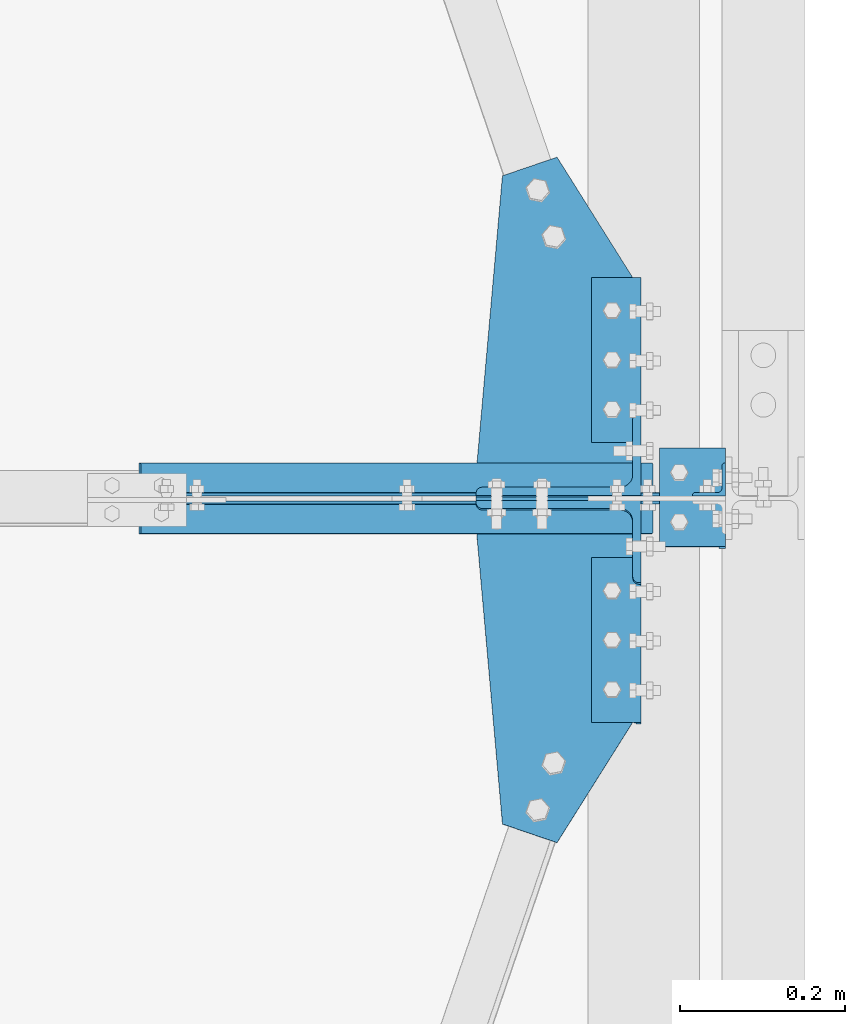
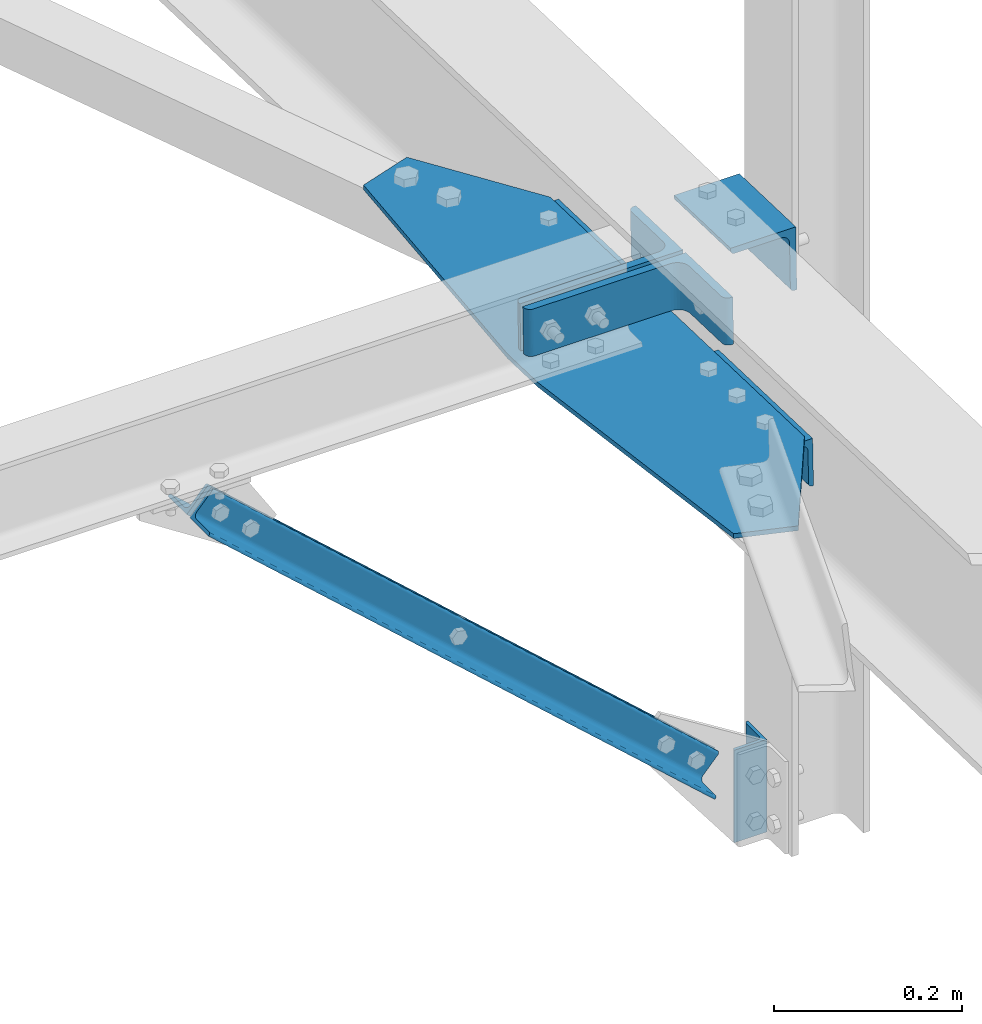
# One storey, part 108 of 362: 5 beams, 4 members, 9 elements without a shape of their own.
"""IFC2X3 building model written with IfcOpenShell, lengths in millimetres."""

from ifc_helpers import new_model, si_unit, frame, origin_with_axes, origin_2d_with_axis, place, context, subcontext, project, spatial, polyline, l_section, outline, extrude, clip, halfspace, material, type_object, element, aggregate, save


model = new_model("IFC2X3")

# Units and contexts
model_context = context("Model", 3, precision=1e-05, world=origin_with_axes())
body_context = subcontext(model_context, "Body", "Model", "MODEL_VIEW")
ifc_project = project(units=[si_unit("LENGTHUNIT", "METRE", prefix="MILLI"), si_unit("AREAUNIT", "SQUARE_METRE"), si_unit("VOLUMEUNIT", "CUBIC_METRE"), si_unit("MASSUNIT", "GRAM", prefix="KILO"), si_unit("TIMEUNIT", "SECOND"), si_unit("PLANEANGLEUNIT", "RADIAN"), si_unit("SOLIDANGLEUNIT", "STERADIAN"), si_unit("THERMODYNAMICTEMPERATUREUNIT", "DEGREE_CELSIUS"), si_unit("LUMINOUSINTENSITYUNIT", "LUMEN")], contexts=[model_context])

# Site, building, storey
site_placement = place(None, origin_with_axes())
site = spatial("IfcSite", under=ifc_project, at=site_placement, Name="Undefined", CompositionType="ELEMENT")
building_placement = place(site_placement, origin_with_axes())
building = spatial("IfcBuilding", under=site, at=building_placement, Name="Undefined", CompositionType="ELEMENT")
storey_placement = place(building_placement, origin_with_axes())
storey = spatial("IfcBuildingStorey", under=building, at=storey_placement, Name="Undefined", CompositionType="ELEMENT", Elevation=0.0)

# Assembly, beam
assembly_1_placement = place(storey_placement, origin_with_axes())
assembly_1 = element("IfcElementAssembly", 1, at=assembly_1_placement, inside=storey, AssemblyPlace="NOTDEFINED", PredefinedType="NOTDEFINED")
ifc_material = material(Name="Undefined/S235-E24")
beam_type_1 = type_object("IfcBeamType", Name="L60*6", PredefinedType="NOTDEFINED")
beam_1_placement = place(assembly_1_placement, frame((39596.4999999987, 3527.11779048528, 7783.07884358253), z_axis=(-1.05403257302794e-09, -0.0314112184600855, -0.999506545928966), x_axis=(3.14103090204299e-11, 0.999506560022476, -0.0314107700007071)))
beam_1 = element("IfcBeam", 2, at=beam_1_placement, type_object=beam_type_1, material=ifc_material, Name="ATTACHE", ObjectType="L60*6", context=body_context, shape_type="SweptSolid", body=[
    extrude(l_section(Depth=60.0, Width=60.0, Thickness=6.0, FilletRadius=8.0, EdgeRadius=4.0, at=origin_2d_with_axis()), frame((200.0, 0.0, 0.0), z_axis=(-1.0, 0.0, 0.0), x_axis=(0.0, -1.0, 0.0)), (0.0, 0.0, 1.0), 200.0),
])
aggregate(assembly_1, [beam_1])

assembly_2_placement = place(storey_placement, origin_with_axes())
assembly_2 = element("IfcElementAssembly", 3, at=assembly_2_placement, inside=storey, AssemblyPlace="NOTDEFINED", PredefinedType="NOTDEFINED")
beam_2_placement = place(assembly_2_placement, frame((39596.4999999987, 3866.9500221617, 7772.3992222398), z_axis=(-1.05403257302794e-09, -0.0314112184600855, -0.999506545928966), x_axis=(3.14103090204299e-11, 0.999506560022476, -0.0314107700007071)))
beam_2 = element("IfcBeam", 4, at=beam_2_placement, type_object=beam_type_1, material=ifc_material, Name="ATTACHE", ObjectType="L60*6", context=body_context, shape_type="SweptSolid", body=[
    extrude(l_section(Depth=60.0, Width=60.0, Thickness=6.0, FilletRadius=8.0, EdgeRadius=4.0, at=origin_2d_with_axis()), frame((200.0, 0.0, 0.0), z_axis=(-1.0, 0.0, 0.0), x_axis=(0.0, -1.0, 0.0)), (0.0, 0.0, 1.0), 200.0),
])
aggregate(assembly_2, [beam_2])

assembly_3_placement = place(storey_placement, origin_with_axes())
assembly_3 = element("IfcElementAssembly", 5, at=assembly_3_placement, inside=storey, AssemblyPlace="NOTDEFINED", PredefinedType="NOTDEFINED")
beam_type_2 = type_object("IfcBeamType", Name="L80*8", PredefinedType="NOTDEFINED")
beam_3_placement = place(assembly_3_placement, frame((39689.0, 3860.12744747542, 7878.46582542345), z_axis=(-1.0, 0.0, 0.0), x_axis=(0.0, -0.999506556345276, 0.031410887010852)))
beam_3 = element("IfcBeam", 6, at=beam_3_placement, type_object=beam_type_2, material=ifc_material, Name="ATTACHE", ObjectType="L80*8", context=body_context, shape_type="SweptSolid", body=[
    extrude(l_section(Depth=80.0, Width=80.0, Thickness=8.0, FilletRadius=10.0, EdgeRadius=5.0, at=origin_2d_with_axis()), frame((120.0, 0.0, 0.0), z_axis=(-1.0, 0.0, 0.0), x_axis=(0.0, -1.0, 0.0)), (0.0, 0.0, 1.0), 120.0),
])
aggregate(assembly_3, [beam_3])

assembly_4_placement = place(storey_placement, origin_with_axes())
assembly_4 = element("IfcElementAssembly", 7, at=assembly_4_placement, inside=storey, AssemblyPlace="NOTDEFINED", PredefinedType="NOTDEFINED")
beam_type_3 = type_object("IfcBeamType", Name="L40*4", PredefinedType="NOTDEFINED")
beam_4_placement = place(assembly_4_placement, frame((39709.0000003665, 3823.0, 7220.00000925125), z_axis=(-1.0, 0.0, 0.0), x_axis=(0.0, 0.0, -1.0)))
beam_4 = element("IfcBeam", 8, at=beam_4_placement, type_object=beam_type_3, material=ifc_material, Name="ATTACHE", ObjectType="L40*4", context=body_context, shape_type="SweptSolid", body=[
    extrude(l_section(Depth=40.0, Width=40.0, Thickness=4.0, FilletRadius=6.0, EdgeRadius=3.0, at=origin_2d_with_axis()), frame((120.0, 0.0, 0.0), z_axis=(-1.0, 0.0, 0.0), x_axis=(0.0, -1.0, 0.0)), (0.0, 0.0, 1.0), 120.0),
])
aggregate(assembly_4, [beam_4])

# Assembly, member
assembly_5_placement = place(storey_placement, origin_with_axes())
assembly_5 = element("IfcElementAssembly", 9, at=assembly_5_placement, inside=storey, AssemblyPlace="NOTDEFINED", PredefinedType="NOTDEFINED")
member_type_1 = type_object("IfcMemberType", Name="L200*100*10", PredefinedType="NOTDEFINED")
member_1_placement = place(assembly_5_placement, frame((39526.5, 3853.60293618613, 7888.87584319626), z_axis=(-1.0, 0.0, 0.0), x_axis=(-1.05403257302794e-09, -0.0314112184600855, -0.999506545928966)))
member_1 = element("IfcMember", 10, at=member_1_placement, type_object=member_type_1, material=ifc_material, Name="ATTACHE", ObjectType="L200*100*10", context=body_context, shape_type="SweptSolid", body=[
    extrude(l_section(Depth=200.0, Width=100.0, Thickness=10.0, FilletRadius=15.0, EdgeRadius=7.5, at=origin_2d_with_axis()), frame((60.0, 0.0, 0.0), z_axis=(-1.0, 0.0, 0.0), x_axis=(0.0, -1.0, 0.0)), (0.0, 0.0, 1.0), 60.0),
])
aggregate(assembly_5, [member_1])

assembly_6_placement = place(storey_placement, origin_with_axes())
assembly_6 = element("IfcElementAssembly", 11, at=assembly_6_placement, inside=storey, AssemblyPlace="NOTDEFINED", PredefinedType="NOTDEFINED")
member_2_placement = place(assembly_6_placement, frame((39526.4999999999, 3745.7696853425, 7832.2351062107), z_axis=(-1.0, 0.0, 0.0), x_axis=(7.58071938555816e-11, 0.0314107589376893, 0.999506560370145)))
member_2 = element("IfcMember", 12, at=member_2_placement, type_object=member_type_1, material=ifc_material, Name="ATTACHE", ObjectType="L200*100*10", context=body_context, shape_type="SweptSolid", body=[
    extrude(l_section(Depth=200.0, Width=100.0, Thickness=10.0, FilletRadius=15.0, EdgeRadius=7.5, at=origin_2d_with_axis()), frame((60.0, 0.0, 0.0), z_axis=(-1.0, 0.0, 0.0), x_axis=(0.0, -1.0, 0.0)), (0.0, 0.0, 1.0), 60.0),
])
aggregate(assembly_6, [member_2])

# Assembly, beam
assembly_7_placement = place(storey_placement, origin_with_axes())
assembly_7 = element("IfcElementAssembly", 13, at=assembly_7_placement, inside=storey, AssemblyPlace="NOTDEFINED", PredefinedType="NOTDEFINED")
beam_type_4 = type_object("IfcBeamType", Name="TOLE6*190", PredefinedType="NOTDEFINED")
beam_5_placement = place(assembly_7_placement, frame((39524.7284665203, 4213.86039998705, 7794.51337791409), z_axis=(7.58071938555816e-11, 0.0314107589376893, 0.999506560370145), x_axis=(-0.94621275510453, -0.323385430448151, 0.0101629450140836)))
beam_5 = element("IfcBeam", 14, at=beam_5_placement, type_object=beam_type_4, material=ifc_material, Name="GOUSSET", ObjectType="TOLE6*190", context=body_context, shape_type="SweptSolid", body=[
    extrude(outline(polyline([(0.0, 0.0), (70.0, 0.0), (217.200622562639, 331.60662841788), (237.907470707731, 392.164245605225), (324.563232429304, 744.475158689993), (269.218597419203, 787.33502197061), (135.130676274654, 678.836425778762), (-39.5834617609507, 167.881454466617), (0.0, 0.0)])), frame((0.0, 0.0, -3.0), z_axis=(0.0, 0.0, 1.0), x_axis=(1.0, 0.0, 0.0)), (0.0, 0.0, 1.0), 6.0),
])
aggregate(assembly_7, [beam_5])

# Assembly, member
assembly_8_placement = place(storey_placement, origin_with_axes())
assembly_8 = element("IfcElementAssembly", 15, at=assembly_8_placement, inside=storey, AssemblyPlace="NOTDEFINED", PredefinedType="NOTDEFINED")
member_type_2 = type_object("IfcMemberType", Name="L40*4", PredefinedType="NOTDEFINED")
member_3_placement = place(assembly_8_placement, frame((38993.6621590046, 3777.00038405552, 7809.03427808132), z_axis=(0.668920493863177, 0.0, 0.743333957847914), x_axis=(0.743333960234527, 0.0, -0.668920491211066)))
member_3 = element("IfcMember", 16, at=member_3_placement, type_object=member_type_2, material=ifc_material, Name="STABILITE", ObjectType="L40*4", context=body_context, shape_type="Clipping", body=[
    clip(clip(extrude(l_section(Depth=40.0, Width=40.0, Thickness=4.0, FilletRadius=6.0, EdgeRadius=3.0, at=origin_2d_with_axis()), frame((925.809947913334, 0.0, 0.0), z_axis=(-1.0, 0.0, 0.0), x_axis=(0.0, -1.0, 0.0)), (0.0, 0.0, 1.0), 915.99), halfspace(frame((885.633657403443, 22.9996159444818, 20.0000000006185), z_axis=(-1.0, 0.0, 0.0), x_axis=(0.0, -1.0, 0.0)), True)), halfspace(frame((50.0000000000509, 22.9996159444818, 20.0000000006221), z_axis=(-1.0, 0.0, 0.0), x_axis=(0.0, -1.0, 0.0)), False)),
])
aggregate(assembly_8, [member_3])

assembly_9_placement = place(storey_placement, origin_with_axes())
assembly_9 = element("IfcElementAssembly", 17, at=assembly_9_placement, inside=storey, AssemblyPlace="NOTDEFINED", PredefinedType="NOTDEFINED")
member_4_placement = place(assembly_9_placement, frame((39727.6621590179, 3823.00038408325, 7148.51334140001), z_axis=(0.668920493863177, 0.0, 0.743333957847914), x_axis=(-0.743333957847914, 0.0, 0.668920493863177)))
member_4 = element("IfcMember", 18, at=member_4_placement, type_object=member_type_2, material=ifc_material, Name="STABILITE", ObjectType="L40*4", context=body_context, shape_type="Clipping", body=[
    clip(clip(extrude(l_section(Depth=40.0, Width=40.0, Thickness=4.0, FilletRadius=6.0, EdgeRadius=3.0, at=origin_2d_with_axis()), frame((977.619406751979, 4.54747350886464e-13, 0.0), z_axis=(-1.0, 0.0, 0.0), x_axis=(0.0, -1.0, 0.0)), (0.0, 0.0, 1.0), 915.99), halfspace(frame((937.443116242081, 23.0003840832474, 19.9999996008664), z_axis=(1.0, 0.0, 0.0), x_axis=(0.0, 1.0, 0.0)), False)), halfspace(frame((101.809458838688, 23.0003840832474, 19.9999996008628), z_axis=(1.0, 0.0, 0.0), x_axis=(0.0, 1.0, 0.0)), True)),
])
aggregate(assembly_9, [member_4])

save(model, "model.ifc")
